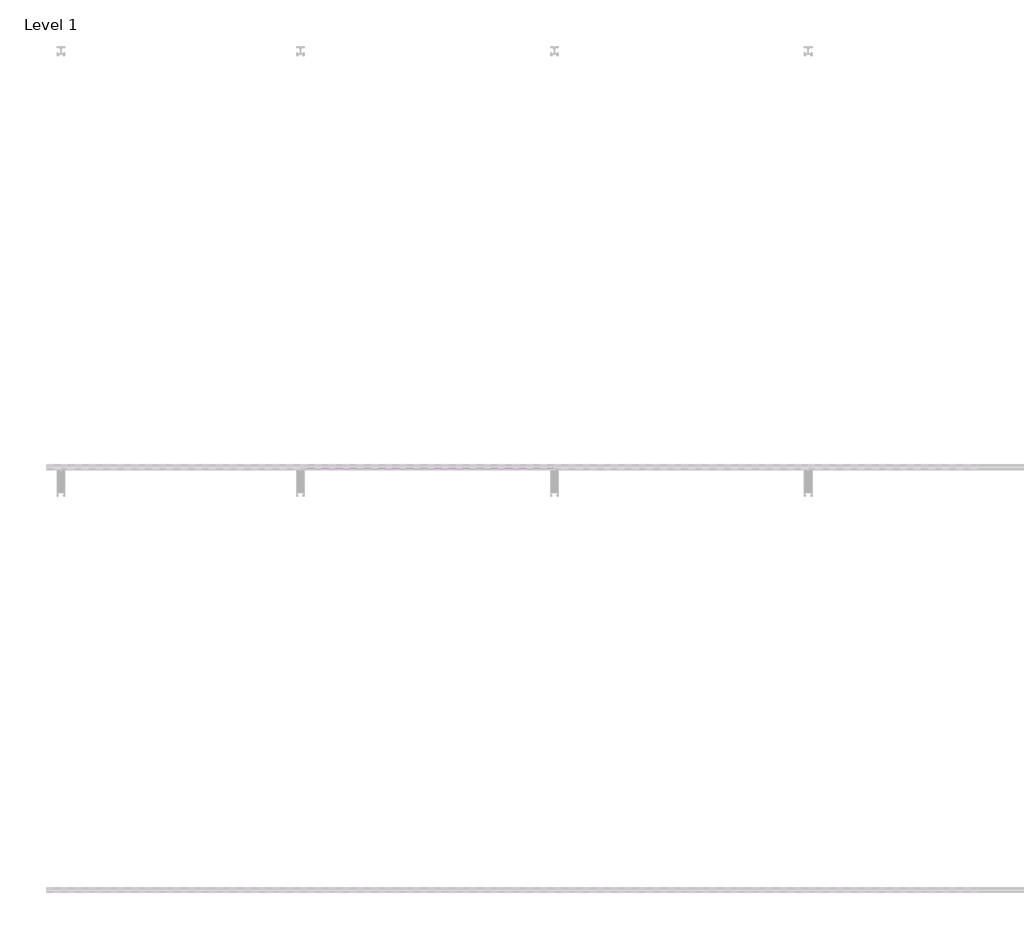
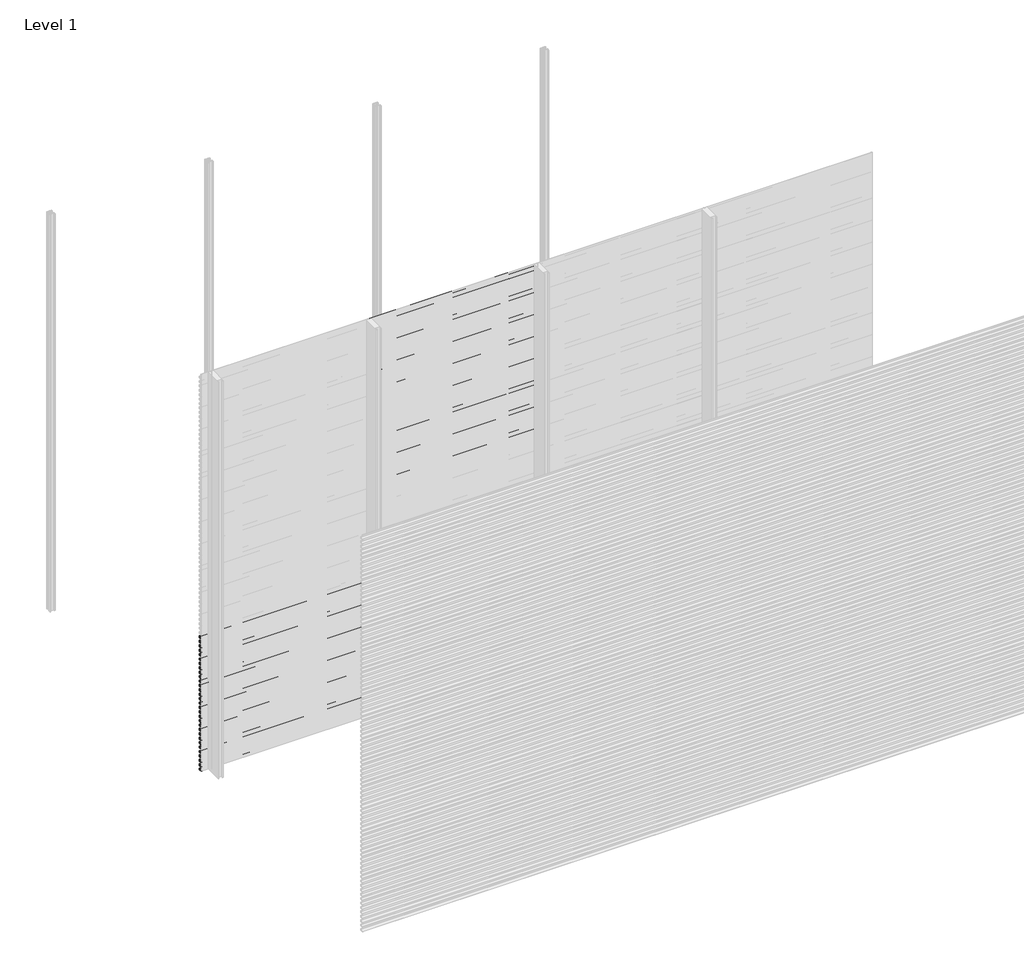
# One storey, part 13 of 77: 72 proxies.
"""IFC4 building model written with IfcOpenShell, lengths in millimetres."""

import ifcopenshell
import ifcopenshell.guid

model = None  # the IFC model being written
_history = None  # IfcOwnerHistory: only IFC2X3 demands one
_inside = {}  # id of a spatial element -> (the spatial element, [elements in it])
_under = {}  # id of a project, library or spatial element -> (it, [spatial elements below it])
_declared = {}  # id of a project -> (the project, [libraries it declares])
_typed = {}  # id of a type object -> (the type object, [elements of that type])
_made_of = {}  # id of a material, layer set ... -> (it, [elements and type objects made of it])


def new_model(schema):
    """Start an empty IFC model of exactly this schema.

    Asked for "IFC4X3", IfcOpenShell would pick the latest addendum, in which some entities
    have other attributes; the version numbers below select the first issue.
    IFC2X3 requires an IfcOwnerHistory on every rooted entity: one is made here for all.
    """
    global model, _history
    if schema == "IFC4X3":
        model = ifcopenshell.file(schema_version=(4, 3, 0, 0))
    else:
        model = ifcopenshell.file(schema=schema)
    _inside.clear()
    _under.clear()
    _declared.clear()
    _typed.clear()
    _made_of.clear()
    _history = None
    if model.schema == "IFC2X3":
        org = make("IfcOrganization", Name="unknown")
        user = make(
            "IfcPersonAndOrganization",
            ThePerson=make("IfcPerson", FamilyName="unknown"),
            TheOrganization=org,
        )
        app = make(
            "IfcApplication",
            ApplicationDeveloper=org,
            Version="unknown",
            ApplicationFullName="unknown",
            ApplicationIdentifier="unknown",
        )
        _history = make(
            "IfcOwnerHistory",
            OwningUser=user,
            OwningApplication=app,
            ChangeAction="ADDED",
            CreationDate=0,
        )
    return model


def make(cls, **values):
    """One entity of the class cls with the attributes given. An attribute that is None is left unset."""
    return model.create_entity(
        cls, **{name: value for name, value in values.items() if value is not None}
    )


def rooted(cls, **values):
    """An entity with a GlobalId (a new one), such as an element, a storey or a relation."""
    return make(cls, GlobalId=ifcopenshell.guid.new(), OwnerHistory=_history, **values)


def si_unit(unit_type, name, prefix=None):
    """IfcSIUnit, for example si_unit("LENGTHUNIT", "METRE", prefix="MILLI")."""
    return make("IfcSIUnit", UnitType=unit_type, Prefix=prefix, Name=name)


def assignment(units):
    """IfcUnitAssignment: the units of a project."""
    return None if units is None else make("IfcUnitAssignment", Units=units)


def point(xyz):
    """IfcCartesianPoint."""
    return None if xyz is None else make("IfcCartesianPoint", Coordinates=xyz)


def direction(xyz):
    """IfcDirection."""
    return None if xyz is None else make("IfcDirection", DirectionRatios=xyz)


def frame(location, z_axis=None, x_axis=None):
    """IfcAxis2Placement3D, a coordinate frame: its origin and axes. An axis left out is left unset."""
    return make(
        "IfcAxis2Placement3D",
        Location=point(location),
        Axis=direction(z_axis),
        RefDirection=direction(x_axis),
    )


def origin():
    """The frame at (0, 0, 0) with its axes left unset."""
    return frame((0.0, 0.0, 0.0))


def place(relative_to, where):
    """IfcLocalPlacement: puts the frame where relative to a parent placement (None: the world)."""
    return make(
        "IfcLocalPlacement", PlacementRelTo=relative_to, RelativePlacement=where
    )


def context(
    kind, dimensions, precision=None, world=None, true_north=None, identifier=None
):
    """IfcGeometricRepresentationContext, for example the 3D "Model" context."""
    return make(
        "IfcGeometricRepresentationContext",
        ContextIdentifier=identifier,
        ContextType=kind,
        CoordinateSpaceDimension=dimensions,
        Precision=precision,
        WorldCoordinateSystem=world,
        TrueNorth=true_north,
    )


def project(units=None, contexts=None):
    """IfcProject with its units and contexts."""
    return rooted(
        "IfcProject",
        Name="project",
        RepresentationContexts=contexts,
        UnitsInContext=assignment(units),
    )


def spatial(cls, under=None, at=None, **own):
    """A site, building, storey or space (cls), placed at a placement, below another one or the project."""
    s = rooted(cls, ObjectPlacement=at, **own)
    if under is not None:
        _under.setdefault(under.id(), (under, []))[1].append(s)
    return s


def polyline(points):
    """IfcPolyline through the points."""
    return make("IfcPolyline", Points=[point(p) for p in points])


def outline(outer, holes=None, kind="AREA"):
    """IfcArbitraryClosedProfileDef: a profile drawn as a closed curve; with holes, ...WithVoids."""
    if holes is None:
        return make("IfcArbitraryClosedProfileDef", ProfileType=kind, OuterCurve=outer)
    return make(
        "IfcArbitraryProfileDefWithVoids",
        ProfileType=kind,
        OuterCurve=outer,
        InnerCurves=holes,
    )


def extrude(swept, where, along, depth):
    """IfcExtrudedAreaSolid: the profile swept, set in the frame where, extruded along a direction by depth."""
    return make(
        "IfcExtrudedAreaSolid",
        SweptArea=swept,
        Position=where,
        ExtrudedDirection=direction(along),
        Depth=depth,
    )


def shape(context_of_items, identifier, shape_type, items):
    """IfcShapeRepresentation: the items that make up one representation, for example the "Body"."""
    return make(
        "IfcShapeRepresentation",
        ContextOfItems=context_of_items,
        RepresentationIdentifier=identifier,
        RepresentationType=shape_type,
        Items=items,
    )


def made_of(thing, what):
    """Note that an element or type object is made of a material, layer set ...; save() writes the relation."""
    if what is not None:
        _made_of.setdefault(what.id(), (what, []))[1].append(thing)
    return thing


def element(
    cls,
    number,
    at=None,
    inside=None,
    cuts=None,
    type_object=None,
    material=None,
    context=None,
    identifier="Body",
    shape_type=None,
    held_by="IfcProductDefinitionShape",
    body=None,
    shapes=None,
    **own,
):
    """One element of the class cls, such as IfcWall. Its Tag is "e" and its number.

    at: its placement. inside: the storey or other place that contains it. cuts: it is an
    opening in that element (IfcRelVoidsElement). A single representation is given by context,
    identifier, shape_type and body (its items); several are given by shapes. held_by: the class
    of the entity that holds the representations. save() writes the other relations.
    """
    e = rooted(cls, Tag="e%d" % number, ObjectPlacement=at, **own)
    if body is not None:
        shapes = [shape(context, identifier, shape_type, body)]
    if shapes is not None:
        e.Representation = make(held_by, Representations=shapes)
    if inside is not None:
        _inside.setdefault(inside.id(), (inside, []))[1].append(e)
    if cuts is not None:
        rooted(
            "IfcRelVoidsElement", RelatingBuildingElement=cuts, RelatedOpeningElement=e
        )
    if type_object is not None:
        _typed.setdefault(type_object.id(), (type_object, []))[1].append(e)
    return made_of(e, material)


def aggregate(whole, parts):
    """IfcRelAggregates: a whole, such as a stair, and the parts it consists of."""
    return rooted("IfcRelAggregates", RelatingObject=whole, RelatedObjects=parts)


def save(model, path):
    """Write the relations noted so far, then the file.

    IfcRelAggregates (storeys below a building ...), IfcRelContainedInSpatialStructure (elements
    in a storey), IfcRelDefinesByType, IfcRelAssociatesMaterial and IfcRelDeclares: one each for
    every whole, place, type object, material and project.
    """
    for whole, parts in _under.values():
        aggregate(whole, parts)
    for where, things in _inside.values():
        rooted(
            "IfcRelContainedInSpatialStructure",
            RelatedElements=things,
            RelatingStructure=where,
        )
    for kind, things in _typed.values():
        rooted("IfcRelDefinesByType", RelatedObjects=things, RelatingType=kind)
    for what, things in _made_of.values():
        rooted("IfcRelAssociatesMaterial", RelatedObjects=things, RelatingMaterial=what)
    for by, libraries in _declared.values():
        rooted("IfcRelDeclares", RelatingContext=by, RelatedDefinitions=libraries)
    model.write(path)


model = new_model("IFC4")

# Units and contexts
model_context = context("Model", 3, world=origin())
ifc_project = project(units=[si_unit("LENGTHUNIT", "METRE", prefix="MILLI")], contexts=[model_context])

# Site, building, storey
site = spatial("IfcSite", under=ifc_project)
building = spatial("IfcBuilding", under=site)
storey = spatial("IfcBuildingStorey", under=building, Name="Level 1", Elevation=0.0)

# Proxies
placement = place(None, origin())
element("IfcBuildingElementProxy", 1, Name="Wall Sweeps", at=placement, inside=storey, context=model_context, shape_type="SweptSolid", body=[
    extrude(outline(polyline([(-47978.6, 1007.8359887), (-47998.0, 1019.0366691), (-47998.0, 1032.3), (-47997.0, 1032.3), (-47997.0, 1019.6191057), (-47977.6, 1008.4185105), (-47977.6, 994.8185105), (-47978.6, 996.3953129), (-47978.6, 1002.2032062), (-47995.9773817, 994.1), (-47996.4, 995.0063078), (-47978.6, 1003.3065841), (-47978.6, 1007.8359887)])), frame((0.0, 0.0, 0.0), z_axis=(1.0, 0.0, 0.0), x_axis=(0.0, 1.0, 0.0)), (0.0, 0.0, 1.0), 1200.0),
])
element("IfcBuildingElementProxy", 2, Name="Wall Sweeps", at=placement, inside=storey, context=model_context, shape_type="SweptSolid", body=[
    extrude(outline(polyline([(-47978.6, 974.5359887), (-47998.0, 985.7366691), (-47998.0, 999.0), (-47997.0, 999.0), (-47997.0, 986.3191057), (-47977.6, 975.1185105), (-47977.6, 961.5185105), (-47978.6, 963.0953129), (-47978.6, 968.9032062), (-47995.9773817, 960.8), (-47996.4, 961.7063078), (-47978.6, 970.0065841), (-47978.6, 974.5359887)])), frame((0.0, 0.0, 0.0), z_axis=(1.0, 0.0, 0.0), x_axis=(0.0, 1.0, 0.0)), (0.0, 0.0, 1.0), 1200.0),
])
element("IfcBuildingElementProxy", 3, Name="Wall Sweeps", at=placement, inside=storey, context=model_context, shape_type="SweptSolid", body=[
    extrude(outline(polyline([(-47978.6, 941.2359887), (-47998.0, 952.4366691), (-47998.0, 965.7), (-47997.0, 965.7), (-47997.0, 953.0191057), (-47977.6, 941.8185105), (-47977.6, 928.2185105), (-47978.6, 929.7953129), (-47978.6, 935.6032062), (-47995.9773817, 927.5), (-47996.4, 928.4063078), (-47978.6, 936.7065841), (-47978.6, 941.2359887)])), frame((0.0, 0.0, 0.0), z_axis=(1.0, 0.0, 0.0), x_axis=(0.0, 1.0, 0.0)), (0.0, 0.0, 1.0), 1200.0),
])
element("IfcBuildingElementProxy", 4, Name="Wall Sweeps", at=placement, inside=storey, context=model_context, shape_type="SweptSolid", body=[
    extrude(outline(polyline([(-47978.6, 907.9359887), (-47998.0, 919.1366691), (-47998.0, 932.4), (-47997.0, 932.4), (-47997.0, 919.7191057), (-47977.6, 908.5185105), (-47977.6, 894.9185105), (-47978.6, 896.4953129), (-47978.6, 902.3032062), (-47995.9773817, 894.2), (-47996.4, 895.1063078), (-47978.6, 903.4065841), (-47978.6, 907.9359887)])), frame((0.0, 0.0, 0.0), z_axis=(1.0, 0.0, 0.0), x_axis=(0.0, 1.0, 0.0)), (0.0, 0.0, 1.0), 1200.0),
])
element("IfcBuildingElementProxy", 5, Name="Wall Sweeps", at=placement, inside=storey, context=model_context, shape_type="SweptSolid", body=[
    extrude(outline(polyline([(-47978.6, 874.6359887), (-47998.0, 885.8366691), (-47998.0, 899.1), (-47997.0, 899.1), (-47997.0, 886.4191057), (-47977.6, 875.2185105), (-47977.6, 861.6185105), (-47978.6, 863.1953129), (-47978.6, 869.0032062), (-47995.9773817, 860.9), (-47996.4, 861.8063078), (-47978.6, 870.1065841), (-47978.6, 874.6359887)])), frame((0.0, 0.0, 0.0), z_axis=(1.0, 0.0, 0.0), x_axis=(0.0, 1.0, 0.0)), (0.0, 0.0, 1.0), 1200.0),
])
element("IfcBuildingElementProxy", 6, Name="Wall Sweeps", at=placement, inside=storey, context=model_context, shape_type="SweptSolid", body=[
    extrude(outline(polyline([(-47978.6, 841.3359887), (-47998.0, 852.5366691), (-47998.0, 865.8), (-47997.0, 865.8), (-47997.0, 853.1191057), (-47977.6, 841.9185105), (-47977.6, 828.3185105), (-47978.6, 829.8953129), (-47978.6, 835.7032062), (-47995.9773817, 827.6), (-47996.4, 828.5063078), (-47978.6, 836.8065841), (-47978.6, 841.3359887)])), frame((0.0, 0.0, 0.0), z_axis=(1.0, 0.0, 0.0), x_axis=(0.0, 1.0, 0.0)), (0.0, 0.0, 1.0), 1200.0),
])
element("IfcBuildingElementProxy", 7, Name="Wall Sweeps", at=placement, inside=storey, context=model_context, shape_type="SweptSolid", body=[
    extrude(outline(polyline([(-47978.6, 808.0359887), (-47998.0, 819.2366691), (-47998.0, 832.5), (-47997.0, 832.5), (-47997.0, 819.8191057), (-47977.6, 808.6185105), (-47977.6, 795.0185105), (-47978.6, 796.5953129), (-47978.6, 802.4032062), (-47995.9773817, 794.3), (-47996.4, 795.2063078), (-47978.6, 803.5065841), (-47978.6, 808.0359887)])), frame((0.0, 0.0, 0.0), z_axis=(1.0, 0.0, 0.0), x_axis=(0.0, 1.0, 0.0)), (0.0, 0.0, 1.0), 1200.0),
])
element("IfcBuildingElementProxy", 8, Name="Wall Sweeps", at=placement, inside=storey, context=model_context, shape_type="SweptSolid", body=[
    extrude(outline(polyline([(-47978.6, 774.7359887), (-47998.0, 785.9366691), (-47998.0, 799.2), (-47997.0, 799.2), (-47997.0, 786.5191057), (-47977.6, 775.3185105), (-47977.6, 761.7185105), (-47978.6, 763.2953129), (-47978.6, 769.1032062), (-47995.9773817, 761.0), (-47996.4, 761.9063078), (-47978.6, 770.2065841), (-47978.6, 774.7359887)])), frame((0.0, 0.0, 0.0), z_axis=(1.0, 0.0, 0.0), x_axis=(0.0, 1.0, 0.0)), (0.0, 0.0, 1.0), 1200.0),
])
element("IfcBuildingElementProxy", 9, Name="Wall Sweeps", at=placement, inside=storey, context=model_context, shape_type="SweptSolid", body=[
    extrude(outline(polyline([(-47978.6, 741.4359887), (-47998.0, 752.6366691), (-47998.0, 765.9), (-47997.0, 765.9), (-47997.0, 753.2191057), (-47977.6, 742.0185105), (-47977.6, 728.4185105), (-47978.6, 729.9953129), (-47978.6, 735.8032062), (-47995.9773817, 727.7), (-47996.4, 728.6063078), (-47978.6, 736.9065841), (-47978.6, 741.4359887)])), frame((0.0, 0.0, 0.0), z_axis=(1.0, 0.0, 0.0), x_axis=(0.0, 1.0, 0.0)), (0.0, 0.0, 1.0), 1200.0),
])
element("IfcBuildingElementProxy", 10, Name="Wall Sweeps", at=placement, inside=storey, context=model_context, shape_type="SweptSolid", body=[
    extrude(outline(polyline([(-47978.6, 708.1359887), (-47998.0, 719.3366691), (-47998.0, 732.6), (-47997.0, 732.6), (-47997.0, 719.9191057), (-47977.6, 708.7185105), (-47977.6, 695.1185105), (-47978.6, 696.6953129), (-47978.6, 702.5032062), (-47995.9773817, 694.4), (-47996.4, 695.3063078), (-47978.6, 703.6065841), (-47978.6, 708.1359887)])), frame((0.0, 0.0, 0.0), z_axis=(1.0, 0.0, 0.0), x_axis=(0.0, 1.0, 0.0)), (0.0, 0.0, 1.0), 1200.0),
])
element("IfcBuildingElementProxy", 11, Name="Wall Sweeps", at=placement, inside=storey, context=model_context, shape_type="SweptSolid", body=[
    extrude(outline(polyline([(-47978.6, 674.8359887), (-47998.0, 686.0366691), (-47998.0, 699.3), (-47997.0, 699.3), (-47997.0, 686.6191057), (-47977.6, 675.4185105), (-47977.6, 661.8185105), (-47978.6, 663.3953129), (-47978.6, 669.2032062), (-47995.9773817, 661.1), (-47996.4, 662.0063078), (-47978.6, 670.3065841), (-47978.6, 674.8359887)])), frame((0.0, 0.0, 0.0), z_axis=(1.0, 0.0, 0.0), x_axis=(0.0, 1.0, 0.0)), (0.0, 0.0, 1.0), 1200.0),
])
element("IfcBuildingElementProxy", 12, Name="Wall Sweeps", at=placement, inside=storey, context=model_context, shape_type="SweptSolid", body=[
    extrude(outline(polyline([(-47978.6, 641.5359887), (-47998.0, 652.7366691), (-47998.0, 666.0), (-47997.0, 666.0), (-47997.0, 653.3191057), (-47977.6, 642.1185105), (-47977.6, 628.5185105), (-47978.6, 630.0953129), (-47978.6, 635.9032062), (-47995.9773817, 627.8), (-47996.4, 628.7063078), (-47978.6, 637.0065841), (-47978.6, 641.5359887)])), frame((0.0, 0.0, 0.0), z_axis=(1.0, 0.0, 0.0), x_axis=(0.0, 1.0, 0.0)), (0.0, 0.0, 1.0), 1200.0),
])
element("IfcBuildingElementProxy", 13, Name="Wall Sweeps", at=placement, inside=storey, context=model_context, shape_type="SweptSolid", body=[
    extrude(outline(polyline([(-47978.6, 608.2359887), (-47998.0, 619.4366691), (-47998.0, 632.7), (-47997.0, 632.7), (-47997.0, 620.0191057), (-47977.6, 608.8185105), (-47977.6, 595.2185105), (-47978.6, 596.7953129), (-47978.6, 602.6032062), (-47995.9773817, 594.5), (-47996.4, 595.4063078), (-47978.6, 603.7065841), (-47978.6, 608.2359887)])), frame((0.0, 0.0, 0.0), z_axis=(1.0, 0.0, 0.0), x_axis=(0.0, 1.0, 0.0)), (0.0, 0.0, 1.0), 1200.0),
])
element("IfcBuildingElementProxy", 14, Name="Wall Sweeps", at=placement, inside=storey, context=model_context, shape_type="SweptSolid", body=[
    extrude(outline(polyline([(-47978.6, 574.9359887), (-47998.0, 586.1366691), (-47998.0, 599.4), (-47997.0, 599.4), (-47997.0, 586.7191057), (-47977.6, 575.5185105), (-47977.6, 561.9185105), (-47978.6, 563.4953129), (-47978.6, 569.3032062), (-47995.9773817, 561.2), (-47996.4, 562.1063078), (-47978.6, 570.4065841), (-47978.6, 574.9359887)])), frame((0.0, 0.0, 0.0), z_axis=(1.0, 0.0, 0.0), x_axis=(0.0, 1.0, 0.0)), (0.0, 0.0, 1.0), 1200.0),
])
element("IfcBuildingElementProxy", 15, Name="Wall Sweeps", at=placement, inside=storey, context=model_context, shape_type="SweptSolid", body=[
    extrude(outline(polyline([(-47978.6, 541.6359887), (-47998.0, 552.8366691), (-47998.0, 566.1), (-47997.0, 566.1), (-47997.0, 553.4191057), (-47977.6, 542.2185105), (-47977.6, 528.6185105), (-47978.6, 530.1953129), (-47978.6, 536.0032062), (-47995.9773817, 527.9), (-47996.4, 528.8063078), (-47978.6, 537.1065841), (-47978.6, 541.6359887)])), frame((0.0, 0.0, 0.0), z_axis=(1.0, 0.0, 0.0), x_axis=(0.0, 1.0, 0.0)), (0.0, 0.0, 1.0), 1200.0),
])
element("IfcBuildingElementProxy", 16, Name="Wall Sweeps", at=placement, inside=storey, context=model_context, shape_type="SweptSolid", body=[
    extrude(outline(polyline([(-47978.6, 508.3359887), (-47998.0, 519.5366691), (-47998.0, 532.8), (-47997.0, 532.8), (-47997.0, 520.1191057), (-47977.6, 508.9185105), (-47977.6, 495.3185105), (-47978.6, 496.8953129), (-47978.6, 502.7032062), (-47995.9773817, 494.6), (-47996.4, 495.5063078), (-47978.6, 503.8065841), (-47978.6, 508.3359887)])), frame((0.0, 0.0, 0.0), z_axis=(1.0, 0.0, 0.0), x_axis=(0.0, 1.0, 0.0)), (0.0, 0.0, 1.0), 1200.0),
])
element("IfcBuildingElementProxy", 17, Name="Wall Sweeps", at=placement, inside=storey, context=model_context, shape_type="SweptSolid", body=[
    extrude(outline(polyline([(-47978.6, 475.0359887), (-47998.0, 486.2366691), (-47998.0, 499.5), (-47997.0, 499.5), (-47997.0, 486.8191057), (-47977.6, 475.6185105), (-47977.6, 462.0185105), (-47978.6, 463.5953129), (-47978.6, 469.4032062), (-47995.9773817, 461.3), (-47996.4, 462.2063078), (-47978.6, 470.5065841), (-47978.6, 475.0359887)])), frame((0.0, 0.0, 0.0), z_axis=(1.0, 0.0, 0.0), x_axis=(0.0, 1.0, 0.0)), (0.0, 0.0, 1.0), 1200.0),
])
element("IfcBuildingElementProxy", 18, Name="Wall Sweeps", at=placement, inside=storey, context=model_context, shape_type="SweptSolid", body=[
    extrude(outline(polyline([(-47978.6, 441.7359887), (-47998.0, 452.9366691), (-47998.0, 466.2), (-47997.0, 466.2), (-47997.0, 453.5191057), (-47977.6, 442.3185105), (-47977.6, 428.7185105), (-47978.6, 430.2953129), (-47978.6, 436.1032062), (-47995.9773817, 428.0), (-47996.4, 428.9063078), (-47978.6, 437.2065841), (-47978.6, 441.7359887)])), frame((0.0, 0.0, 0.0), z_axis=(1.0, 0.0, 0.0), x_axis=(0.0, 1.0, 0.0)), (0.0, 0.0, 1.0), 1200.0),
])
element("IfcBuildingElementProxy", 19, Name="Wall Sweeps", at=placement, inside=storey, context=model_context, shape_type="SweptSolid", body=[
    extrude(outline(polyline([(-47978.6, 408.4359887), (-47998.0, 419.6366691), (-47998.0, 432.9), (-47997.0, 432.9), (-47997.0, 420.2191057), (-47977.6, 409.0185105), (-47977.6, 395.4185105), (-47978.6, 396.9953129), (-47978.6, 402.8032062), (-47995.9773817, 394.7), (-47996.4, 395.6063078), (-47978.6, 403.9065841), (-47978.6, 408.4359887)])), frame((0.0, 0.0, 0.0), z_axis=(1.0, 0.0, 0.0), x_axis=(0.0, 1.0, 0.0)), (0.0, 0.0, 1.0), 1200.0),
])
element("IfcBuildingElementProxy", 20, Name="Wall Sweeps", at=placement, inside=storey, context=model_context, shape_type="SweptSolid", body=[
    extrude(outline(polyline([(-47978.6, 375.1359887), (-47998.0, 386.3366691), (-47998.0, 399.6), (-47997.0, 399.6), (-47997.0, 386.9191057), (-47977.6, 375.7185105), (-47977.6, 362.1185105), (-47978.6, 363.6953129), (-47978.6, 369.5032062), (-47995.9773817, 361.4), (-47996.4, 362.3063078), (-47978.6, 370.6065841), (-47978.6, 375.1359887)])), frame((0.0, 0.0, 0.0), z_axis=(1.0, 0.0, 0.0), x_axis=(0.0, 1.0, 0.0)), (0.0, 0.0, 1.0), 1200.0),
])
element("IfcBuildingElementProxy", 21, Name="Wall Sweeps", at=placement, inside=storey, context=model_context, shape_type="SweptSolid", body=[
    extrude(outline(polyline([(-47978.6, 341.8359887), (-47998.0, 353.0366691), (-47998.0, 366.3), (-47997.0, 366.3), (-47997.0, 353.6191057), (-47977.6, 342.4185105), (-47977.6, 328.8185105), (-47978.6, 330.3953129), (-47978.6, 336.2032062), (-47995.9773817, 328.1), (-47996.4, 329.0063078), (-47978.6, 337.3065841), (-47978.6, 341.8359887)])), frame((0.0, 0.0, 0.0), z_axis=(1.0, 0.0, 0.0), x_axis=(0.0, 1.0, 0.0)), (0.0, 0.0, 1.0), 1200.0),
])
element("IfcBuildingElementProxy", 22, Name="Wall Sweeps", at=placement, inside=storey, context=model_context, shape_type="SweptSolid", body=[
    extrude(outline(polyline([(-47978.6, 308.5359887), (-47998.0, 319.7366691), (-47998.0, 333.0), (-47997.0, 333.0), (-47997.0, 320.3191057), (-47977.6, 309.1185105), (-47977.6, 295.5185105), (-47978.6, 297.0953129), (-47978.6, 302.9032062), (-47995.9773817, 294.8), (-47996.4, 295.7063078), (-47978.6, 304.0065841), (-47978.6, 308.5359887)])), frame((0.0, 0.0, 0.0), z_axis=(1.0, 0.0, 0.0), x_axis=(0.0, 1.0, 0.0)), (0.0, 0.0, 1.0), 1200.0),
])
element("IfcBuildingElementProxy", 23, Name="Wall Sweeps", at=placement, inside=storey, context=model_context, shape_type="SweptSolid", body=[
    extrude(outline(polyline([(-47978.6, 275.2359887), (-47998.0, 286.4366691), (-47998.0, 299.7), (-47997.0, 299.7), (-47997.0, 287.0191057), (-47977.6, 275.8185105), (-47977.6, 262.2185105), (-47978.6, 263.7953129), (-47978.6, 269.6032062), (-47995.9773817, 261.5), (-47996.4, 262.4063078), (-47978.6, 270.7065841), (-47978.6, 275.2359887)])), frame((0.0, 0.0, 0.0), z_axis=(1.0, 0.0, 0.0), x_axis=(0.0, 1.0, 0.0)), (0.0, 0.0, 1.0), 1200.0),
])
element("IfcBuildingElementProxy", 24, Name="Wall Sweeps", at=placement, inside=storey, context=model_context, shape_type="SweptSolid", body=[
    extrude(outline(polyline([(-47978.6, 241.9359887), (-47998.0, 253.1366691), (-47998.0, 266.4), (-47997.0, 266.4), (-47997.0, 253.7191057), (-47977.6, 242.5185105), (-47977.6, 228.9185105), (-47978.6, 230.4953129), (-47978.6, 236.3032062), (-47995.9773817, 228.2), (-47996.4, 229.1063078), (-47978.6, 237.4065841), (-47978.6, 241.9359887)])), frame((0.0, 0.0, 0.0), z_axis=(1.0, 0.0, 0.0), x_axis=(0.0, 1.0, 0.0)), (0.0, 0.0, 1.0), 1200.0),
])
element("IfcBuildingElementProxy", 25, Name="Wall Sweeps", at=placement, inside=storey, context=model_context, shape_type="SweptSolid", body=[
    extrude(outline(polyline([(-47978.6, 208.6359887), (-47998.0, 219.8366691), (-47998.0, 233.1), (-47997.0, 233.1), (-47997.0, 220.4191057), (-47977.6, 209.2185105), (-47977.6, 195.6185105), (-47978.6, 197.1953129), (-47978.6, 203.0032062), (-47995.9773817, 194.9), (-47996.4, 195.8063078), (-47978.6, 204.1065841), (-47978.6, 208.6359887)])), frame((0.0, 0.0, 0.0), z_axis=(1.0, 0.0, 0.0), x_axis=(0.0, 1.0, 0.0)), (0.0, 0.0, 1.0), 1200.0),
])
element("IfcBuildingElementProxy", 26, Name="Wall Sweeps", at=placement, inside=storey, context=model_context, shape_type="SweptSolid", body=[
    extrude(outline(polyline([(-47978.6, 175.3359887), (-47998.0, 186.5366691), (-47998.0, 199.8), (-47997.0, 199.8), (-47997.0, 187.1191057), (-47977.6, 175.9185105), (-47977.6, 162.3185105), (-47978.6, 163.8953129), (-47978.6, 169.7032062), (-47995.9773817, 161.6), (-47996.4, 162.5063078), (-47978.6, 170.8065841), (-47978.6, 175.3359887)])), frame((0.0, 0.0, 0.0), z_axis=(1.0, 0.0, 0.0), x_axis=(0.0, 1.0, 0.0)), (0.0, 0.0, 1.0), 1200.0),
])
element("IfcBuildingElementProxy", 27, Name="Wall Sweeps", at=placement, inside=storey, context=model_context, shape_type="SweptSolid", body=[
    extrude(outline(polyline([(-47978.6, 142.0359887), (-47998.0, 153.2366691), (-47998.0, 166.5), (-47997.0, 166.5), (-47997.0, 153.8191057), (-47977.6, 142.6185105), (-47977.6, 129.0185105), (-47978.6, 130.5953129), (-47978.6, 136.4032062), (-47995.9773817, 128.3), (-47996.4, 129.2063078), (-47978.6, 137.5065841), (-47978.6, 142.0359887)])), frame((0.0, 0.0, 0.0), z_axis=(1.0, 0.0, 0.0), x_axis=(0.0, 1.0, 0.0)), (0.0, 0.0, 1.0), 1200.0),
])
element("IfcBuildingElementProxy", 28, Name="Wall Sweeps", at=placement, inside=storey, context=model_context, shape_type="SweptSolid", body=[
    extrude(outline(polyline([(-47978.6, 108.7359887), (-47998.0, 119.9366691), (-47998.0, 133.2), (-47997.0, 133.2), (-47997.0, 120.5191057), (-47977.6, 109.3185105), (-47977.6, 95.7185105), (-47978.6, 97.2953129), (-47978.6, 103.1032062), (-47995.9773817, 95.0), (-47996.4, 95.9063078), (-47978.6, 104.2065841), (-47978.6, 108.7359887)])), frame((0.0, 0.0, 0.0), z_axis=(1.0, 0.0, 0.0), x_axis=(0.0, 1.0, 0.0)), (0.0, 0.0, 1.0), 1200.0),
])
element("IfcBuildingElementProxy", 29, Name="Wall Sweeps", at=placement, inside=storey, context=model_context, shape_type="SweptSolid", body=[
    extrude(outline(polyline([(-47978.6, 75.4359887), (-47998.0, 86.6366691), (-47998.0, 99.9), (-47997.0, 99.9), (-47997.0, 87.2191057), (-47977.6, 76.0185105), (-47977.6, 62.4185105), (-47978.6, 63.9953129), (-47978.6, 69.8032062), (-47995.9773817, 61.7), (-47996.4, 62.6063078), (-47978.6, 70.9065841), (-47978.6, 75.4359887)])), frame((0.0, 0.0, 0.0), z_axis=(1.0, 0.0, 0.0), x_axis=(0.0, 1.0, 0.0)), (0.0, 0.0, 1.0), 1200.0),
])
element("IfcBuildingElementProxy", 30, Name="Wall Sweeps", at=placement, inside=storey, context=model_context, shape_type="SweptSolid", body=[
    extrude(outline(polyline([(-47978.6, 42.1359887), (-47998.0, 53.3366691), (-47998.0, 66.6), (-47997.0, 66.6), (-47997.0, 53.9191057), (-47977.6, 42.7185105), (-47977.6, 29.1185105), (-47978.6, 30.6953129), (-47978.6, 36.5032062), (-47995.9773817, 28.4), (-47996.4, 29.3063078), (-47978.6, 37.6065841), (-47978.6, 42.1359887)])), frame((0.0, 0.0, 0.0), z_axis=(1.0, 0.0, 0.0), x_axis=(0.0, 1.0, 0.0)), (0.0, 0.0, 1.0), 1200.0),
])
element("IfcBuildingElementProxy", 31, Name="Wall Sweeps", at=placement, inside=storey, context=model_context, shape_type="SweptSolid", body=[
    extrude(outline(polyline([(-47978.6, 8.8359887), (-47998.0, 20.0366691), (-47998.0, 33.3), (-47997.0, 33.3), (-47997.0, 20.6191057), (-47977.6, 9.4185105), (-47977.6, -4.1814895), (-47978.6, -2.6046871), (-47978.6, 3.2032062), (-47995.9773817, -4.9), (-47996.4, -3.9936922), (-47978.6, 4.3065841), (-47978.6, 8.8359887)])), frame((0.0, 0.0, 0.0), z_axis=(1.0, 0.0, 0.0), x_axis=(0.0, 1.0, 0.0)), (0.0, 0.0, 1.0), 1200.0),
])
element("IfcBuildingElementProxy", 32, Name="Wall Sweeps", at=placement, inside=storey, context=model_context, shape_type="SweptSolid", body=[
    extrude(outline(polyline([(-47978.6, 2972.5359887), (-47998.0, 2983.7366691), (-47998.0, 2997.0), (-47997.0, 2997.0), (-47997.0, 2984.3191057), (-47977.6, 2973.1185105), (-47977.6, 2959.5185105), (-47978.6, 2961.0953129), (-47978.6, 2966.9032062), (-47995.9773817, 2958.8), (-47996.4, 2959.7063078), (-47978.6, 2968.0065841), (-47978.6, 2972.5359887)])), frame((1200.0, 0.0, 0.0), z_axis=(1.0, 0.0, 0.0), x_axis=(0.0, 1.0, 0.0)), (0.0, 0.0, 1.0), 1200.0),
])
element("IfcBuildingElementProxy", 33, Name="Wall Sweeps", at=placement, inside=storey, context=model_context, shape_type="SweptSolid", body=[
    extrude(outline(polyline([(-47978.6, 2939.2359887), (-47998.0, 2950.4366691), (-47998.0, 2963.7), (-47997.0, 2963.7), (-47997.0, 2951.0191057), (-47977.6, 2939.8185105), (-47977.6, 2926.2185105), (-47978.6, 2927.7953129), (-47978.6, 2933.6032062), (-47995.9773817, 2925.5), (-47996.4, 2926.4063078), (-47978.6, 2934.7065841), (-47978.6, 2939.2359887)])), frame((1200.0, 0.0, 0.0), z_axis=(1.0, 0.0, 0.0), x_axis=(0.0, 1.0, 0.0)), (0.0, 0.0, 1.0), 1200.0),
])
element("IfcBuildingElementProxy", 34, Name="Wall Sweeps", at=placement, inside=storey, context=model_context, shape_type="SweptSolid", body=[
    extrude(outline(polyline([(-47978.6, 2905.9359887), (-47998.0, 2917.1366691), (-47998.0, 2930.4), (-47997.0, 2930.4), (-47997.0, 2917.7191057), (-47977.6, 2906.5185105), (-47977.6, 2892.9185105), (-47978.6, 2894.4953129), (-47978.6, 2900.3032062), (-47995.9773817, 2892.2), (-47996.4, 2893.1063078), (-47978.6, 2901.4065841), (-47978.6, 2905.9359887)])), frame((1200.0, 0.0, 0.0), z_axis=(1.0, 0.0, 0.0), x_axis=(0.0, 1.0, 0.0)), (0.0, 0.0, 1.0), 1200.0),
])
element("IfcBuildingElementProxy", 35, Name="Wall Sweeps", at=placement, inside=storey, context=model_context, shape_type="SweptSolid", body=[
    extrude(outline(polyline([(-47978.6, 2872.6359887), (-47998.0, 2883.8366691), (-47998.0, 2897.1), (-47997.0, 2897.1), (-47997.0, 2884.4191057), (-47977.6, 2873.2185105), (-47977.6, 2859.6185105), (-47978.6, 2861.1953129), (-47978.6, 2867.0032062), (-47995.9773817, 2858.9), (-47996.4, 2859.8063078), (-47978.6, 2868.1065841), (-47978.6, 2872.6359887)])), frame((1200.0, 0.0, 0.0), z_axis=(1.0, 0.0, 0.0), x_axis=(0.0, 1.0, 0.0)), (0.0, 0.0, 1.0), 1200.0),
])
element("IfcBuildingElementProxy", 36, Name="Wall Sweeps", at=placement, inside=storey, context=model_context, shape_type="SweptSolid", body=[
    extrude(outline(polyline([(-47978.6, 2839.3359887), (-47998.0, 2850.5366691), (-47998.0, 2863.8), (-47997.0, 2863.8), (-47997.0, 2851.1191057), (-47977.6, 2839.9185105), (-47977.6, 2826.3185105), (-47978.6, 2827.8953129), (-47978.6, 2833.7032062), (-47995.9773817, 2825.6), (-47996.4, 2826.5063078), (-47978.6, 2834.8065841), (-47978.6, 2839.3359887)])), frame((1200.0, 0.0, 0.0), z_axis=(1.0, 0.0, 0.0), x_axis=(0.0, 1.0, 0.0)), (0.0, 0.0, 1.0), 1200.0),
])
element("IfcBuildingElementProxy", 37, Name="Wall Sweeps", at=placement, inside=storey, context=model_context, shape_type="SweptSolid", body=[
    extrude(outline(polyline([(-47978.6, 2806.0359887), (-47998.0, 2817.2366691), (-47998.0, 2830.5), (-47997.0, 2830.5), (-47997.0, 2817.8191057), (-47977.6, 2806.6185105), (-47977.6, 2793.0185105), (-47978.6, 2794.5953129), (-47978.6, 2800.4032062), (-47995.9773817, 2792.3), (-47996.4, 2793.2063078), (-47978.6, 2801.5065841), (-47978.6, 2806.0359887)])), frame((1200.0, 0.0, 0.0), z_axis=(1.0, 0.0, 0.0), x_axis=(0.0, 1.0, 0.0)), (0.0, 0.0, 1.0), 1200.0),
])
element("IfcBuildingElementProxy", 38, Name="Wall Sweeps", at=placement, inside=storey, context=model_context, shape_type="SweptSolid", body=[
    extrude(outline(polyline([(-47978.6, 2772.7359887), (-47998.0, 2783.9366691), (-47998.0, 2797.2), (-47997.0, 2797.2), (-47997.0, 2784.5191057), (-47977.6, 2773.3185105), (-47977.6, 2759.7185105), (-47978.6, 2761.2953129), (-47978.6, 2767.1032062), (-47995.9773817, 2759.0), (-47996.4, 2759.9063078), (-47978.6, 2768.2065841), (-47978.6, 2772.7359887)])), frame((1200.0, 0.0, 0.0), z_axis=(1.0, 0.0, 0.0), x_axis=(0.0, 1.0, 0.0)), (0.0, 0.0, 1.0), 1200.0),
])
element("IfcBuildingElementProxy", 39, Name="Wall Sweeps", at=placement, inside=storey, context=model_context, shape_type="SweptSolid", body=[
    extrude(outline(polyline([(-47978.6, 2739.4359887), (-47998.0, 2750.6366691), (-47998.0, 2763.9), (-47997.0, 2763.9), (-47997.0, 2751.2191057), (-47977.6, 2740.0185105), (-47977.6, 2726.4185105), (-47978.6, 2727.9953129), (-47978.6, 2733.8032062), (-47995.9773817, 2725.7), (-47996.4, 2726.6063078), (-47978.6, 2734.9065841), (-47978.6, 2739.4359887)])), frame((1200.0, 0.0, 0.0), z_axis=(1.0, 0.0, 0.0), x_axis=(0.0, 1.0, 0.0)), (0.0, 0.0, 1.0), 1200.0),
])
element("IfcBuildingElementProxy", 40, Name="Wall Sweeps", at=placement, inside=storey, context=model_context, shape_type="SweptSolid", body=[
    extrude(outline(polyline([(-47978.6, 2706.1359887), (-47998.0, 2717.3366691), (-47998.0, 2730.6), (-47997.0, 2730.6), (-47997.0, 2717.9191057), (-47977.6, 2706.7185105), (-47977.6, 2693.1185105), (-47978.6, 2694.6953129), (-47978.6, 2700.5032062), (-47995.9773817, 2692.4), (-47996.4, 2693.3063078), (-47978.6, 2701.6065841), (-47978.6, 2706.1359887)])), frame((1200.0, 0.0, 0.0), z_axis=(1.0, 0.0, 0.0), x_axis=(0.0, 1.0, 0.0)), (0.0, 0.0, 1.0), 1200.0),
])
element("IfcBuildingElementProxy", 41, Name="Wall Sweeps", at=placement, inside=storey, context=model_context, shape_type="SweptSolid", body=[
    extrude(outline(polyline([(-47978.6, 2672.8359887), (-47998.0, 2684.0366691), (-47998.0, 2697.3), (-47997.0, 2697.3), (-47997.0, 2684.6191057), (-47977.6, 2673.4185105), (-47977.6, 2659.8185105), (-47978.6, 2661.3953129), (-47978.6, 2667.2032062), (-47995.9773817, 2659.1), (-47996.4, 2660.0063078), (-47978.6, 2668.3065841), (-47978.6, 2672.8359887)])), frame((1200.0, 0.0, 0.0), z_axis=(1.0, 0.0, 0.0), x_axis=(0.0, 1.0, 0.0)), (0.0, 0.0, 1.0), 1200.0),
])
element("IfcBuildingElementProxy", 42, Name="Wall Sweeps", at=placement, inside=storey, context=model_context, shape_type="SweptSolid", body=[
    extrude(outline(polyline([(-47978.6, 2639.5359887), (-47998.0, 2650.7366691), (-47998.0, 2664.0), (-47997.0, 2664.0), (-47997.0, 2651.3191057), (-47977.6, 2640.1185105), (-47977.6, 2626.5185105), (-47978.6, 2628.0953129), (-47978.6, 2633.9032062), (-47995.9773817, 2625.8), (-47996.4, 2626.7063078), (-47978.6, 2635.0065841), (-47978.6, 2639.5359887)])), frame((1200.0, 0.0, 0.0), z_axis=(1.0, 0.0, 0.0), x_axis=(0.0, 1.0, 0.0)), (0.0, 0.0, 1.0), 1200.0),
])
element("IfcBuildingElementProxy", 43, Name="Wall Sweeps", at=placement, inside=storey, context=model_context, shape_type="SweptSolid", body=[
    extrude(outline(polyline([(-47978.6, 2606.2359887), (-47998.0, 2617.4366691), (-47998.0, 2630.7), (-47997.0, 2630.7), (-47997.0, 2618.0191057), (-47977.6, 2606.8185105), (-47977.6, 2593.2185105), (-47978.6, 2594.7953129), (-47978.6, 2600.6032062), (-47995.9773817, 2592.5), (-47996.4, 2593.4063078), (-47978.6, 2601.7065841), (-47978.6, 2606.2359887)])), frame((1200.0, 0.0, 0.0), z_axis=(1.0, 0.0, 0.0), x_axis=(0.0, 1.0, 0.0)), (0.0, 0.0, 1.0), 1200.0),
])
element("IfcBuildingElementProxy", 44, Name="Wall Sweeps", at=placement, inside=storey, context=model_context, shape_type="SweptSolid", body=[
    extrude(outline(polyline([(-47978.6, 2572.9359887), (-47998.0, 2584.1366691), (-47998.0, 2597.4), (-47997.0, 2597.4), (-47997.0, 2584.7191057), (-47977.6, 2573.5185105), (-47977.6, 2559.9185105), (-47978.6, 2561.4953129), (-47978.6, 2567.3032062), (-47995.9773817, 2559.2), (-47996.4, 2560.1063078), (-47978.6, 2568.4065841), (-47978.6, 2572.9359887)])), frame((1200.0, 0.0, 0.0), z_axis=(1.0, 0.0, 0.0), x_axis=(0.0, 1.0, 0.0)), (0.0, 0.0, 1.0), 1200.0),
])
element("IfcBuildingElementProxy", 45, Name="Wall Sweeps", at=placement, inside=storey, context=model_context, shape_type="SweptSolid", body=[
    extrude(outline(polyline([(-47978.6, 2539.6359887), (-47998.0, 2550.8366691), (-47998.0, 2564.1), (-47997.0, 2564.1), (-47997.0, 2551.4191057), (-47977.6, 2540.2185105), (-47977.6, 2526.6185105), (-47978.6, 2528.1953129), (-47978.6, 2534.0032062), (-47995.9773817, 2525.9), (-47996.4, 2526.8063078), (-47978.6, 2535.1065841), (-47978.6, 2539.6359887)])), frame((1200.0, 0.0, 0.0), z_axis=(1.0, 0.0, 0.0), x_axis=(0.0, 1.0, 0.0)), (0.0, 0.0, 1.0), 1200.0),
])
element("IfcBuildingElementProxy", 46, Name="Wall Sweeps", at=placement, inside=storey, context=model_context, shape_type="SweptSolid", body=[
    extrude(outline(polyline([(-47978.6, 2506.3359887), (-47998.0, 2517.5366691), (-47998.0, 2530.8), (-47997.0, 2530.8), (-47997.0, 2518.1191057), (-47977.6, 2506.9185105), (-47977.6, 2493.3185105), (-47978.6, 2494.8953129), (-47978.6, 2500.7032062), (-47995.9773817, 2492.6), (-47996.4, 2493.5063078), (-47978.6, 2501.8065841), (-47978.6, 2506.3359887)])), frame((1200.0, 0.0, 0.0), z_axis=(1.0, 0.0, 0.0), x_axis=(0.0, 1.0, 0.0)), (0.0, 0.0, 1.0), 1200.0),
])
element("IfcBuildingElementProxy", 47, Name="Wall Sweeps", at=placement, inside=storey, context=model_context, shape_type="SweptSolid", body=[
    extrude(outline(polyline([(-47978.6, 2473.0359887), (-47998.0, 2484.2366691), (-47998.0, 2497.5), (-47997.0, 2497.5), (-47997.0, 2484.8191057), (-47977.6, 2473.6185105), (-47977.6, 2460.0185105), (-47978.6, 2461.5953129), (-47978.6, 2467.4032062), (-47995.9773817, 2459.3), (-47996.4, 2460.2063078), (-47978.6, 2468.5065841), (-47978.6, 2473.0359887)])), frame((1200.0, 0.0, 0.0), z_axis=(1.0, 0.0, 0.0), x_axis=(0.0, 1.0, 0.0)), (0.0, 0.0, 1.0), 1200.0),
])
element("IfcBuildingElementProxy", 48, Name="Wall Sweeps", at=placement, inside=storey, context=model_context, shape_type="SweptSolid", body=[
    extrude(outline(polyline([(-47978.6, 2439.7359887), (-47998.0, 2450.9366691), (-47998.0, 2464.2), (-47997.0, 2464.2), (-47997.0, 2451.5191057), (-47977.6, 2440.3185105), (-47977.6, 2426.7185105), (-47978.6, 2428.2953129), (-47978.6, 2434.1032062), (-47995.9773817, 2426.0), (-47996.4, 2426.9063078), (-47978.6, 2435.2065841), (-47978.6, 2439.7359887)])), frame((1200.0, 0.0, 0.0), z_axis=(1.0, 0.0, 0.0), x_axis=(0.0, 1.0, 0.0)), (0.0, 0.0, 1.0), 1200.0),
])
element("IfcBuildingElementProxy", 49, Name="Wall Sweeps", at=placement, inside=storey, context=model_context, shape_type="SweptSolid", body=[
    extrude(outline(polyline([(-47978.6, 2406.4359887), (-47998.0, 2417.6366691), (-47998.0, 2430.9), (-47997.0, 2430.9), (-47997.0, 2418.2191057), (-47977.6, 2407.0185105), (-47977.6, 2393.4185105), (-47978.6, 2394.9953129), (-47978.6, 2400.8032062), (-47995.9773817, 2392.7), (-47996.4, 2393.6063078), (-47978.6, 2401.9065841), (-47978.6, 2406.4359887)])), frame((1200.0, 0.0, 0.0), z_axis=(1.0, 0.0, 0.0), x_axis=(0.0, 1.0, 0.0)), (0.0, 0.0, 1.0), 1200.0),
])
element("IfcBuildingElementProxy", 50, Name="Wall Sweeps", at=placement, inside=storey, context=model_context, shape_type="SweptSolid", body=[
    extrude(outline(polyline([(-47978.6, 2373.1359887), (-47998.0, 2384.3366691), (-47998.0, 2397.6), (-47997.0, 2397.6), (-47997.0, 2384.9191057), (-47977.6, 2373.7185105), (-47977.6, 2360.1185105), (-47978.6, 2361.6953129), (-47978.6, 2367.5032062), (-47995.9773817, 2359.4), (-47996.4, 2360.3063078), (-47978.6, 2368.6065841), (-47978.6, 2373.1359887)])), frame((1200.0, 0.0, 0.0), z_axis=(1.0, 0.0, 0.0), x_axis=(0.0, 1.0, 0.0)), (0.0, 0.0, 1.0), 1200.0),
])
element("IfcBuildingElementProxy", 51, Name="Wall Sweeps", at=placement, inside=storey, context=model_context, shape_type="SweptSolid", body=[
    extrude(outline(polyline([(-47978.6, 2339.8359887), (-47998.0, 2351.0366691), (-47998.0, 2364.3), (-47997.0, 2364.3), (-47997.0, 2351.6191057), (-47977.6, 2340.4185105), (-47977.6, 2326.8185105), (-47978.6, 2328.3953129), (-47978.6, 2334.2032062), (-47995.9773817, 2326.1), (-47996.4, 2327.0063078), (-47978.6, 2335.3065841), (-47978.6, 2339.8359887)])), frame((1200.0, 0.0, 0.0), z_axis=(1.0, 0.0, 0.0), x_axis=(0.0, 1.0, 0.0)), (0.0, 0.0, 1.0), 1200.0),
])
element("IfcBuildingElementProxy", 52, Name="Wall Sweeps", at=placement, inside=storey, context=model_context, shape_type="SweptSolid", body=[
    extrude(outline(polyline([(-47978.6, 2306.5359887), (-47998.0, 2317.7366691), (-47998.0, 2331.0), (-47997.0, 2331.0), (-47997.0, 2318.3191057), (-47977.6, 2307.1185105), (-47977.6, 2293.5185105), (-47978.6, 2295.0953129), (-47978.6, 2300.9032062), (-47995.9773817, 2292.8), (-47996.4, 2293.7063078), (-47978.6, 2302.0065841), (-47978.6, 2306.5359887)])), frame((1200.0, 0.0, 0.0), z_axis=(1.0, 0.0, 0.0), x_axis=(0.0, 1.0, 0.0)), (0.0, 0.0, 1.0), 1200.0),
])
element("IfcBuildingElementProxy", 53, Name="Wall Sweeps", at=placement, inside=storey, context=model_context, shape_type="SweptSolid", body=[
    extrude(outline(polyline([(-47978.6, 2273.2359887), (-47998.0, 2284.4366691), (-47998.0, 2297.7), (-47997.0, 2297.7), (-47997.0, 2285.0191057), (-47977.6, 2273.8185105), (-47977.6, 2260.2185105), (-47978.6, 2261.7953129), (-47978.6, 2267.6032062), (-47995.9773817, 2259.5), (-47996.4, 2260.4063078), (-47978.6, 2268.7065841), (-47978.6, 2273.2359887)])), frame((1200.0, 0.0, 0.0), z_axis=(1.0, 0.0, 0.0), x_axis=(0.0, 1.0, 0.0)), (0.0, 0.0, 1.0), 1200.0),
])
element("IfcBuildingElementProxy", 54, Name="Wall Sweeps", at=placement, inside=storey, context=model_context, shape_type="SweptSolid", body=[
    extrude(outline(polyline([(-47978.6, 2239.9359887), (-47998.0, 2251.1366691), (-47998.0, 2264.4), (-47997.0, 2264.4), (-47997.0, 2251.7191057), (-47977.6, 2240.5185105), (-47977.6, 2226.9185105), (-47978.6, 2228.4953129), (-47978.6, 2234.3032062), (-47995.9773817, 2226.2), (-47996.4, 2227.1063078), (-47978.6, 2235.4065841), (-47978.6, 2239.9359887)])), frame((1200.0, 0.0, 0.0), z_axis=(1.0, 0.0, 0.0), x_axis=(0.0, 1.0, 0.0)), (0.0, 0.0, 1.0), 1200.0),
])
element("IfcBuildingElementProxy", 55, Name="Wall Sweeps", at=placement, inside=storey, context=model_context, shape_type="SweptSolid", body=[
    extrude(outline(polyline([(-47978.6, 2206.6359887), (-47998.0, 2217.8366691), (-47998.0, 2231.1), (-47997.0, 2231.1), (-47997.0, 2218.4191057), (-47977.6, 2207.2185105), (-47977.6, 2193.6185105), (-47978.6, 2195.1953129), (-47978.6, 2201.0032062), (-47995.9773817, 2192.9), (-47996.4, 2193.8063078), (-47978.6, 2202.1065841), (-47978.6, 2206.6359887)])), frame((1200.0, 0.0, 0.0), z_axis=(1.0, 0.0, 0.0), x_axis=(0.0, 1.0, 0.0)), (0.0, 0.0, 1.0), 1200.0),
])
element("IfcBuildingElementProxy", 56, Name="Wall Sweeps", at=placement, inside=storey, context=model_context, shape_type="SweptSolid", body=[
    extrude(outline(polyline([(-47978.6, 2173.3359887), (-47998.0, 2184.5366691), (-47998.0, 2197.8), (-47997.0, 2197.8), (-47997.0, 2185.1191057), (-47977.6, 2173.9185105), (-47977.6, 2160.3185105), (-47978.6, 2161.8953129), (-47978.6, 2167.7032062), (-47995.9773817, 2159.6), (-47996.4, 2160.5063078), (-47978.6, 2168.8065841), (-47978.6, 2173.3359887)])), frame((1200.0, 0.0, 0.0), z_axis=(1.0, 0.0, 0.0), x_axis=(0.0, 1.0, 0.0)), (0.0, 0.0, 1.0), 1200.0),
])
element("IfcBuildingElementProxy", 57, Name="Wall Sweeps", at=placement, inside=storey, context=model_context, shape_type="SweptSolid", body=[
    extrude(outline(polyline([(-47978.6, 2140.0359887), (-47998.0, 2151.2366691), (-47998.0, 2164.5), (-47997.0, 2164.5), (-47997.0, 2151.8191057), (-47977.6, 2140.6185105), (-47977.6, 2127.0185105), (-47978.6, 2128.5953129), (-47978.6, 2134.4032062), (-47995.9773817, 2126.3), (-47996.4, 2127.2063078), (-47978.6, 2135.5065841), (-47978.6, 2140.0359887)])), frame((1200.0, 0.0, 0.0), z_axis=(1.0, 0.0, 0.0), x_axis=(0.0, 1.0, 0.0)), (0.0, 0.0, 1.0), 1200.0),
])
element("IfcBuildingElementProxy", 58, Name="Wall Sweeps", at=placement, inside=storey, context=model_context, shape_type="SweptSolid", body=[
    extrude(outline(polyline([(-47978.6, 2106.7359887), (-47998.0, 2117.9366691), (-47998.0, 2131.2), (-47997.0, 2131.2), (-47997.0, 2118.5191057), (-47977.6, 2107.3185105), (-47977.6, 2093.7185105), (-47978.6, 2095.2953129), (-47978.6, 2101.1032062), (-47995.9773817, 2093.0), (-47996.4, 2093.9063078), (-47978.6, 2102.2065841), (-47978.6, 2106.7359887)])), frame((1200.0, 0.0, 0.0), z_axis=(1.0, 0.0, 0.0), x_axis=(0.0, 1.0, 0.0)), (0.0, 0.0, 1.0), 1200.0),
])
element("IfcBuildingElementProxy", 59, Name="Wall Sweeps", at=placement, inside=storey, context=model_context, shape_type="SweptSolid", body=[
    extrude(outline(polyline([(-47978.6, 2073.4359887), (-47998.0, 2084.6366691), (-47998.0, 2097.9), (-47997.0, 2097.9), (-47997.0, 2085.2191057), (-47977.6, 2074.0185105), (-47977.6, 2060.4185105), (-47978.6, 2061.9953129), (-47978.6, 2067.8032062), (-47995.9773817, 2059.7), (-47996.4, 2060.6063078), (-47978.6, 2068.9065841), (-47978.6, 2073.4359887)])), frame((1200.0, 0.0, 0.0), z_axis=(1.0, 0.0, 0.0), x_axis=(0.0, 1.0, 0.0)), (0.0, 0.0, 1.0), 1200.0),
])
element("IfcBuildingElementProxy", 60, Name="Wall Sweeps", at=placement, inside=storey, context=model_context, shape_type="SweptSolid", body=[
    extrude(outline(polyline([(-47978.6, 2040.1359887), (-47998.0, 2051.3366691), (-47998.0, 2064.6), (-47997.0, 2064.6), (-47997.0, 2051.9191057), (-47977.6, 2040.7185105), (-47977.6, 2027.1185105), (-47978.6, 2028.6953129), (-47978.6, 2034.5032062), (-47995.9773817, 2026.4), (-47996.4, 2027.3063078), (-47978.6, 2035.6065841), (-47978.6, 2040.1359887)])), frame((1200.0, 0.0, 0.0), z_axis=(1.0, 0.0, 0.0), x_axis=(0.0, 1.0, 0.0)), (0.0, 0.0, 1.0), 1200.0),
])
element("IfcBuildingElementProxy", 61, Name="Wall Sweeps", at=placement, inside=storey, context=model_context, shape_type="SweptSolid", body=[
    extrude(outline(polyline([(-47978.6, 2006.8359887), (-47998.0, 2018.0366691), (-47998.0, 2031.3), (-47997.0, 2031.3), (-47997.0, 2018.6191057), (-47977.6, 2007.4185105), (-47977.6, 1993.8185105), (-47978.6, 1995.3953129), (-47978.6, 2001.2032062), (-47995.9773817, 1993.1), (-47996.4, 1994.0063078), (-47978.6, 2002.3065841), (-47978.6, 2006.8359887)])), frame((1200.0, 0.0, 0.0), z_axis=(1.0, 0.0, 0.0), x_axis=(0.0, 1.0, 0.0)), (0.0, 0.0, 1.0), 1200.0),
])
element("IfcBuildingElementProxy", 62, Name="Wall Sweeps", at=placement, inside=storey, context=model_context, shape_type="SweptSolid", body=[
    extrude(outline(polyline([(-47978.6, 1973.5359887), (-47998.0, 1984.7366691), (-47998.0, 1998.0), (-47997.0, 1998.0), (-47997.0, 1985.3191057), (-47977.6, 1974.1185105), (-47977.6, 1960.5185105), (-47978.6, 1962.0953129), (-47978.6, 1967.9032062), (-47995.9773817, 1959.8), (-47996.4, 1960.7063078), (-47978.6, 1969.0065841), (-47978.6, 1973.5359887)])), frame((1200.0, 0.0, 0.0), z_axis=(1.0, 0.0, 0.0), x_axis=(0.0, 1.0, 0.0)), (0.0, 0.0, 1.0), 1200.0),
])
element("IfcBuildingElementProxy", 63, Name="Wall Sweeps", at=placement, inside=storey, context=model_context, shape_type="SweptSolid", body=[
    extrude(outline(polyline([(-47978.6, 1940.2359887), (-47998.0, 1951.4366691), (-47998.0, 1964.7), (-47997.0, 1964.7), (-47997.0, 1952.0191057), (-47977.6, 1940.8185105), (-47977.6, 1927.2185105), (-47978.6, 1928.7953129), (-47978.6, 1934.6032062), (-47995.9773817, 1926.5), (-47996.4, 1927.4063078), (-47978.6, 1935.7065841), (-47978.6, 1940.2359887)])), frame((1200.0, 0.0, 0.0), z_axis=(1.0, 0.0, 0.0), x_axis=(0.0, 1.0, 0.0)), (0.0, 0.0, 1.0), 1200.0),
])
element("IfcBuildingElementProxy", 64, Name="Wall Sweeps", at=placement, inside=storey, context=model_context, shape_type="SweptSolid", body=[
    extrude(outline(polyline([(-47978.6, 1906.9359887), (-47998.0, 1918.1366691), (-47998.0, 1931.4), (-47997.0, 1931.4), (-47997.0, 1918.7191057), (-47977.6, 1907.5185105), (-47977.6, 1893.9185105), (-47978.6, 1895.4953129), (-47978.6, 1901.3032062), (-47995.9773817, 1893.2), (-47996.4, 1894.1063078), (-47978.6, 1902.4065841), (-47978.6, 1906.9359887)])), frame((1200.0, 0.0, 0.0), z_axis=(1.0, 0.0, 0.0), x_axis=(0.0, 1.0, 0.0)), (0.0, 0.0, 1.0), 1200.0),
])
element("IfcBuildingElementProxy", 65, Name="Wall Sweeps", at=placement, inside=storey, context=model_context, shape_type="SweptSolid", body=[
    extrude(outline(polyline([(-47978.6, 1873.6359887), (-47998.0, 1884.8366691), (-47998.0, 1898.1), (-47997.0, 1898.1), (-47997.0, 1885.4191057), (-47977.6, 1874.2185105), (-47977.6, 1860.6185105), (-47978.6, 1862.1953129), (-47978.6, 1868.0032062), (-47995.9773817, 1859.9), (-47996.4, 1860.8063078), (-47978.6, 1869.1065841), (-47978.6, 1873.6359887)])), frame((1200.0, 0.0, 0.0), z_axis=(1.0, 0.0, 0.0), x_axis=(0.0, 1.0, 0.0)), (0.0, 0.0, 1.0), 1200.0),
])
element("IfcBuildingElementProxy", 66, Name="Wall Sweeps", at=placement, inside=storey, context=model_context, shape_type="SweptSolid", body=[
    extrude(outline(polyline([(-47978.6, 1840.3359887), (-47998.0, 1851.5366691), (-47998.0, 1864.8), (-47997.0, 1864.8), (-47997.0, 1852.1191057), (-47977.6, 1840.9185105), (-47977.6, 1827.3185105), (-47978.6, 1828.8953129), (-47978.6, 1834.7032062), (-47995.9773817, 1826.6), (-47996.4, 1827.5063078), (-47978.6, 1835.8065841), (-47978.6, 1840.3359887)])), frame((1200.0, 0.0, 0.0), z_axis=(1.0, 0.0, 0.0), x_axis=(0.0, 1.0, 0.0)), (0.0, 0.0, 1.0), 1200.0),
])
element("IfcBuildingElementProxy", 67, Name="Wall Sweeps", at=placement, inside=storey, context=model_context, shape_type="SweptSolid", body=[
    extrude(outline(polyline([(-47978.6, 1807.0359887), (-47998.0, 1818.2366691), (-47998.0, 1831.5), (-47997.0, 1831.5), (-47997.0, 1818.8191057), (-47977.6, 1807.6185105), (-47977.6, 1794.0185105), (-47978.6, 1795.5953129), (-47978.6, 1801.4032062), (-47995.9773817, 1793.3), (-47996.4, 1794.2063078), (-47978.6, 1802.5065841), (-47978.6, 1807.0359887)])), frame((1200.0, 0.0, 0.0), z_axis=(1.0, 0.0, 0.0), x_axis=(0.0, 1.0, 0.0)), (0.0, 0.0, 1.0), 1200.0),
])
element("IfcBuildingElementProxy", 68, Name="Wall Sweeps", at=placement, inside=storey, context=model_context, shape_type="SweptSolid", body=[
    extrude(outline(polyline([(-47978.6, 1773.7359887), (-47998.0, 1784.9366691), (-47998.0, 1798.2), (-47997.0, 1798.2), (-47997.0, 1785.5191057), (-47977.6, 1774.3185105), (-47977.6, 1760.7185105), (-47978.6, 1762.2953129), (-47978.6, 1768.1032062), (-47995.9773817, 1760.0), (-47996.4, 1760.9063078), (-47978.6, 1769.2065841), (-47978.6, 1773.7359887)])), frame((1200.0, 0.0, 0.0), z_axis=(1.0, 0.0, 0.0), x_axis=(0.0, 1.0, 0.0)), (0.0, 0.0, 1.0), 1200.0),
])
element("IfcBuildingElementProxy", 69, Name="Wall Sweeps", at=placement, inside=storey, context=model_context, shape_type="SweptSolid", body=[
    extrude(outline(polyline([(-47978.6, 1740.4359887), (-47998.0, 1751.6366691), (-47998.0, 1764.9), (-47997.0, 1764.9), (-47997.0, 1752.2191057), (-47977.6, 1741.0185105), (-47977.6, 1727.4185105), (-47978.6, 1728.9953129), (-47978.6, 1734.8032062), (-47995.9773817, 1726.7), (-47996.4, 1727.6063078), (-47978.6, 1735.9065841), (-47978.6, 1740.4359887)])), frame((1200.0, 0.0, 0.0), z_axis=(1.0, 0.0, 0.0), x_axis=(0.0, 1.0, 0.0)), (0.0, 0.0, 1.0), 1200.0),
])
element("IfcBuildingElementProxy", 70, Name="Wall Sweeps", at=placement, inside=storey, context=model_context, shape_type="SweptSolid", body=[
    extrude(outline(polyline([(-47978.6, 1707.1359887), (-47998.0, 1718.3366691), (-47998.0, 1731.6), (-47997.0, 1731.6), (-47997.0, 1718.9191057), (-47977.6, 1707.7185105), (-47977.6, 1694.1185105), (-47978.6, 1695.6953129), (-47978.6, 1701.5032062), (-47995.9773817, 1693.4), (-47996.4, 1694.3063078), (-47978.6, 1702.6065841), (-47978.6, 1707.1359887)])), frame((1200.0, 0.0, 0.0), z_axis=(1.0, 0.0, 0.0), x_axis=(0.0, 1.0, 0.0)), (0.0, 0.0, 1.0), 1200.0),
])
element("IfcBuildingElementProxy", 71, Name="Wall Sweeps", at=placement, inside=storey, context=model_context, shape_type="SweptSolid", body=[
    extrude(outline(polyline([(-47978.6, 1673.8359887), (-47998.0, 1685.0366691), (-47998.0, 1698.3), (-47997.0, 1698.3), (-47997.0, 1685.6191057), (-47977.6, 1674.4185105), (-47977.6, 1660.8185105), (-47978.6, 1662.3953129), (-47978.6, 1668.2032062), (-47995.9773817, 1660.1), (-47996.4, 1661.0063078), (-47978.6, 1669.3065841), (-47978.6, 1673.8359887)])), frame((1200.0, 0.0, 0.0), z_axis=(1.0, 0.0, 0.0), x_axis=(0.0, 1.0, 0.0)), (0.0, 0.0, 1.0), 1200.0),
])
element("IfcBuildingElementProxy", 72, Name="Wall Sweeps", at=placement, inside=storey, context=model_context, shape_type="SweptSolid", body=[
    extrude(outline(polyline([(-47978.6, 1640.5359887), (-47998.0, 1651.7366691), (-47998.0, 1665.0), (-47997.0, 1665.0), (-47997.0, 1652.3191057), (-47977.6, 1641.1185105), (-47977.6, 1627.5185105), (-47978.6, 1629.0953129), (-47978.6, 1634.9032062), (-47995.9773817, 1626.8), (-47996.4, 1627.7063078), (-47978.6, 1636.0065841), (-47978.6, 1640.5359887)])), frame((1200.0, 0.0, 0.0), z_axis=(1.0, 0.0, 0.0), x_axis=(0.0, 1.0, 0.0)), (0.0, 0.0, 1.0), 1200.0),
])

save(model, "model.ifc")
